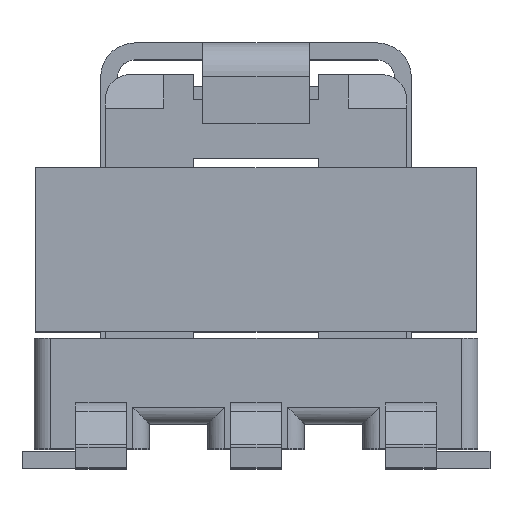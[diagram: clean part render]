
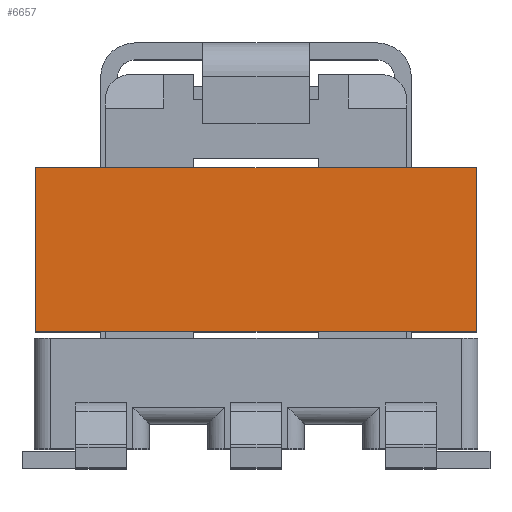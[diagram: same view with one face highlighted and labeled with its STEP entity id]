
A CAD part, top view. The second image highlights one B-rep face of the part: STEP entity #6657.
In plain terms, the highlighted planar face has unit normal (0, 0, 1) as drawn and (0, 0, -1) by its records, which use the part's own axes.
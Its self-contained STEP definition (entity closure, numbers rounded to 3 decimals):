
#193 = CARTESIAN_POINT ( 'NONE',  ( -2.63, -0.975, -2.64 ) ) ;
#634 = VECTOR ( 'NONE', #9557, 1000. ) ;
#783 = CARTESIAN_POINT ( 'NONE',  ( 2.63, 0.975, -2.64 ) ) ;
#837 = ORIENTED_EDGE ( 'NONE', *, *, #5601, .F. ) ;
#877 = LINE ( 'NONE', #8820, #634 ) ;
#1056 = EDGE_CURVE ( 'NONE', #6425, #6705, #5300, .T. ) ;
#1280 = ORIENTED_EDGE ( 'NONE', *, *, #7692, .F. ) ;
#1556 = ORIENTED_EDGE ( 'NONE', *, *, #1056, .F. ) ;
#1994 = VECTOR ( 'NONE', #8285, 1000. ) ;
#2459 = VECTOR ( 'NONE', #7669, 1000. ) ;
#2951 = PLANE ( 'NONE',  #3516 ) ;
#3516 = AXIS2_PLACEMENT_3D ( 'NONE', #4443, #8169, #3714 ) ;
#3714 = DIRECTION ( 'NONE',  ( 1., 0., 0. ) ) ;
#3717 = CARTESIAN_POINT ( 'NONE',  ( 2.63, 0.975, -2.64 ) ) ;
#4232 = LINE ( 'NONE', #6059, #1994 ) ;
#4443 = CARTESIAN_POINT ( 'NONE',  ( -2.63, -0.975, -2.64 ) ) ;
#4770 = ORIENTED_EDGE ( 'NONE', *, *, #7884, .F. ) ;
#4864 = EDGE_LOOP ( 'NONE', ( #1280, #4770, #1556, #837 ) ) ;
#4909 = CARTESIAN_POINT ( 'NONE',  ( 2.63, -0.975, -2.64 ) ) ;
#5091 = VERTEX_POINT ( 'NONE', #193 ) ;
#5300 = LINE ( 'NONE', #3717, #9019 ) ;
#5376 = FACE_OUTER_BOUND ( 'NONE', #4864, .T. ) ;
#5477 = CARTESIAN_POINT ( 'NONE',  ( -2.63, 0.975, -2.64 ) ) ;
#5601 = EDGE_CURVE ( 'NONE', #5091, #6425, #4232, .T. ) ;
#5917 = DIRECTION ( 'NONE',  ( 0., 1., 0. ) ) ;
#6059 = CARTESIAN_POINT ( 'NONE',  ( -2.63, -0.975, -2.64 ) ) ;
#6408 = CARTESIAN_POINT ( 'NONE',  ( -2.63, 0.975, -2.64 ) ) ;
#6425 = VERTEX_POINT ( 'NONE', #4909 ) ;
#6471 = LINE ( 'NONE', #5477, #2459 ) ;
#6657 = ADVANCED_FACE ( 'NONE', ( #5376 ), #2951, .F. ) ;
#6705 = VERTEX_POINT ( 'NONE', #783 ) ;
#7669 = DIRECTION ( 'NONE',  ( -1., 0., 0. ) ) ;
#7692 = EDGE_CURVE ( 'NONE', #8387, #5091, #877, .T. ) ;
#7884 = EDGE_CURVE ( 'NONE', #6705, #8387, #6471, .T. ) ;
#8169 = DIRECTION ( 'NONE',  ( 0., 0., 1. ) ) ;
#8285 = DIRECTION ( 'NONE',  ( 1., 0., 0. ) ) ;
#8387 = VERTEX_POINT ( 'NONE', #6408 ) ;
#8820 = CARTESIAN_POINT ( 'NONE',  ( -2.63, 0.975, -2.64 ) ) ;
#9019 = VECTOR ( 'NONE', #5917, 1000. ) ;
#9557 = DIRECTION ( 'NONE',  ( 0., -1., 0. ) ) ;
